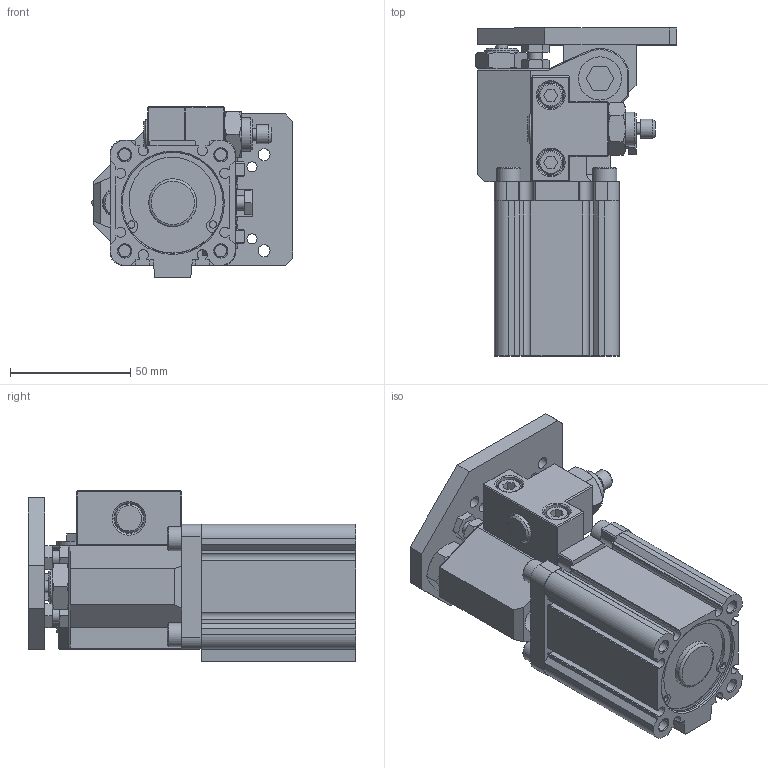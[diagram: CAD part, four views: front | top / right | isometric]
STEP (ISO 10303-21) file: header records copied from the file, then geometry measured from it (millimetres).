
FILE_DESCRIPTION(/* description */ (''),/* implementation_level */ '2;1');
FILE_NAME(/* name */ 'DHR2C-40M30-ZG-ZB-AC.stp',/* time_stamp */ '2024-06-17T14:02:33+08:00',/* author */ (''),/* organization */ (''),/* preprocessor_version */ 'ST-DEVELOPER v15',/* originating_system */ 'SIEMENS PLM Software NX 10.0',/* authorisation */ '');
FILE_SCHEMA (('AP203_CONFIGURATION_CONTROLLED_3D_DESIGN_OF_MECHANICAL_PARTS_AND_ASSEMBLIES_MIM_LF { 1 0 10303 403 2 1 2}'));
Length unit declared in the file: millimetre
Products named in the file (1): Admi17A8933F7aou
Bounding box: 83.97 x 136.5 x 71 mm (x, y, z)
Volume: 310959.3 mm3; surface area: 104163.3 mm2
Topology: 61 solids, 61 shells, 922 faces, 2171 edges, 1351 vertices
Faces by surface type: plane 512, cylinder 203, cone 171, sphere 24, torus 8, bspline 4
Full cylindrical faces by diameter (mm): 1.5 x16, 2.5 x4, 3 x4, 4 x3, 4.2 x7, 5 x19, 5.2 x4, 6 x13, 6.5 x8, 7 x2, 8 x2, 8.6 x2, 10 x13, 11 x4, 12 x5, 12.2 x1, 12.5 x4, 13 x1, 13.6 x1, 14 x5, 14.5 x1, 16 x2, 18 x6, 20 x2, 20.5 x1, 41.8 x2, 42 x4, 44.5 x2
Entity records: 24872 total; most frequent: CARTESIAN_POINT 4944, DIRECTION 4210, ORIENTED_EDGE 3586, EDGE_CURVE 1793, AXIS2_PLACEMENT_3D 1652, EDGE_LOOP 1301, VERTEX_POINT 1274, ADVANCED_FACE 922
